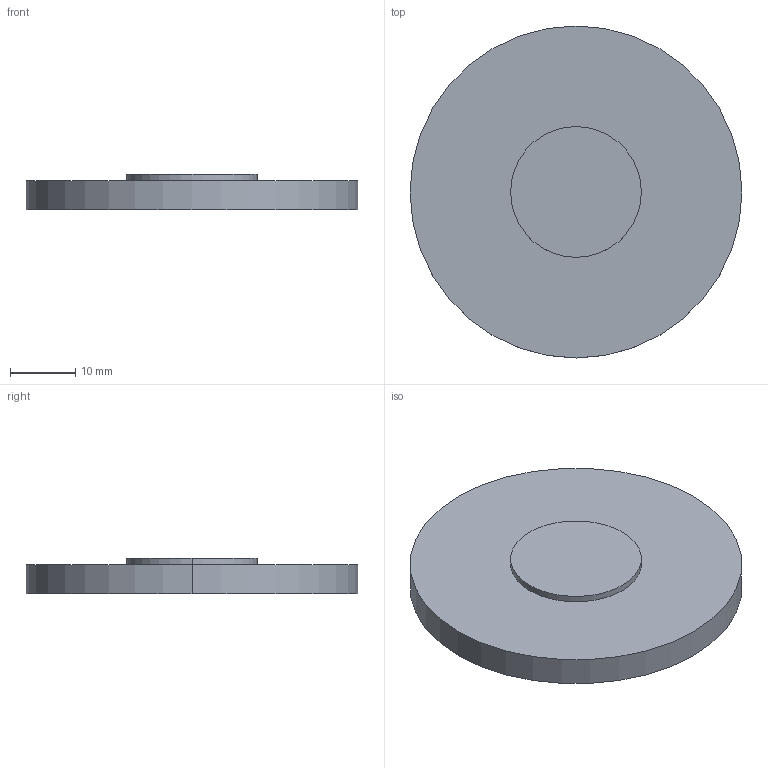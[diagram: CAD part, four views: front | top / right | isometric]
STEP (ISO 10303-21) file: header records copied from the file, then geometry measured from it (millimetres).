
FILE_DESCRIPTION(('STEP AP214'),'1');
FILE_NAME('LLG-51-5M.STEP','2020-03-09T17:41:39',(' '),(' '),'Spatial InterOp 3D',' ',' ');
FILE_SCHEMA(('AUTOMOTIVE_DESIGN { 1 0 10303 214 1 1 1 1 }'));
Length unit declared in the file: millimetre
Products named in the file (1): 1
Bounding box: 50.8 x 50.8 x 5.5 mm (x, y, z)
Volume: 9413 mm3; surface area: 5459.5 mm2
Topology: 2 solids, 2 shells, 9 faces, 16 edges, 9 vertices
Faces by surface type: cylinder 4, plane 3, sphere 2
Entity records: 229 total; most frequent: DIRECTION 46, CARTESIAN_POINT 34, ORIENTED_EDGE 28, AXIS2_PLACEMENT_3D 21, EDGE_CURVE 14, CIRCLE 10, ADVANCED_FACE 9, FACE_OUTER_BOUND 9
